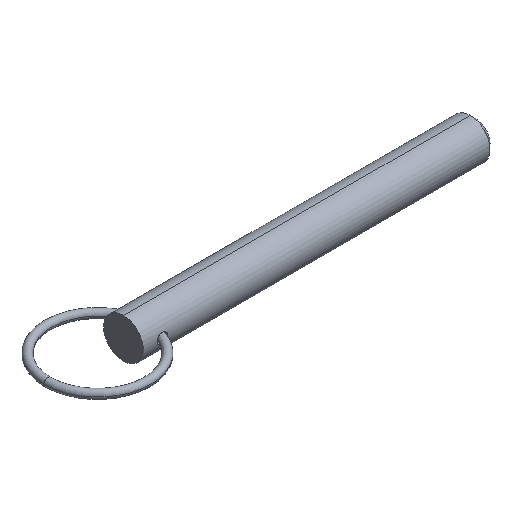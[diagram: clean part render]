
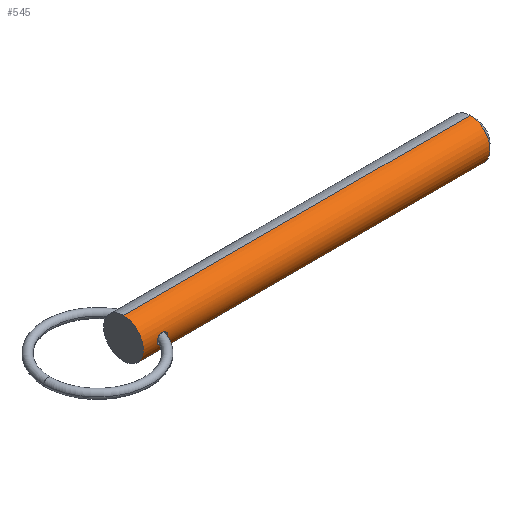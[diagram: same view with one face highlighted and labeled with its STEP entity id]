
A CAD part, isometric view. The second image highlights one B-rep face of the part: STEP entity #545.
In plain terms, the highlighted cylindrical face has radius 6.35 mm (diameter 12.7 mm), a partial arc.
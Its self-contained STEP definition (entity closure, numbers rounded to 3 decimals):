
#16 = ORIENTED_EDGE ( 'NONE', *, *, #175, .T. ) ;
#18 = CARTESIAN_POINT ( 'NONE',  ( 0., 0., 6.35 ) ) ;
#24 = CARTESIAN_POINT ( 'NONE',  ( 4.722, -6.298, -0.813 ) ) ;
#25 = AXIS2_PLACEMENT_3D ( 'NONE', #134, #818, #417 ) ;
#26 = CARTESIAN_POINT ( 'NONE',  ( 111.112, 0., 6.35 ) ) ;
#29 = ORIENTED_EDGE ( 'NONE', *, *, #763, .T. ) ;
#31 = CARTESIAN_POINT ( 'NONE',  ( 7.496, -6.256, -1.091 ) ) ;
#32 = DIRECTION ( 'NONE',  ( 1., 0., 0. ) ) ;
#38 = CARTESIAN_POINT ( 'NONE',  ( 111.112, 0., 0. ) ) ;
#44 = FACE_BOUND ( 'NONE', #229, .T. ) ;
#50 = CARTESIAN_POINT ( 'NONE',  ( 6.111, -6.15, 1.582 ) ) ;
#53 = CARTESIAN_POINT ( 'NONE',  ( 4.452, -6.35, 0.219 ) ) ;
#66 = LINE ( 'NONE', #146, #630 ) ;
#90 = CARTESIAN_POINT ( 'NONE',  ( 7.865, -6.336, -0.432 ) ) ;
#95 = CARTESIAN_POINT ( 'NONE',  ( 7.92, -6.35, -0.109 ) ) ;
#96 = EDGE_CURVE ( 'NONE', #118, #852, #214, .T. ) ;
#100 = CARTESIAN_POINT ( 'NONE',  ( 7.693, -6.296, -0.832 ) ) ;
#102 = EDGE_LOOP ( 'NONE', ( #142, #219, #16, #500 ) ) ;
#104 = CARTESIAN_POINT ( 'NONE',  ( 6.107, -6.15, -1.582 ) ) ;
#106 = CARTESIAN_POINT ( 'NONE',  ( 5.685, -6.172, 1.494 ) ) ;
#118 = VERTEX_POINT ( 'NONE', #201 ) ;
#134 = CARTESIAN_POINT ( 'NONE',  ( 0., 0., 0. ) ) ;
#142 = ORIENTED_EDGE ( 'NONE', *, *, #356, .F. ) ;
#146 = CARTESIAN_POINT ( 'NONE',  ( 0., 0., -6.35 ) ) ;
#152 = CARTESIAN_POINT ( 'NONE',  ( 6.963, -6.18, -1.459 ) ) ;
#157 = CARTESIAN_POINT ( 'NONE',  ( 7.833, -6.328, -0.536 ) ) ;
#172 = CARTESIAN_POINT ( 'NONE',  ( 5.191, -6.224, 1.268 ) ) ;
#174 = CARTESIAN_POINT ( 'NONE',  ( 5.784, -6.165, -1.523 ) ) ;
#175 = EDGE_CURVE ( 'NONE', #736, #768, #66, .T. ) ;
#179 = CARTESIAN_POINT ( 'NONE',  ( 0., 0., 6.35 ) ) ;
#191 = CARTESIAN_POINT ( 'NONE',  ( 4.713, -6.3, 0.82 ) ) ;
#196 = CARTESIAN_POINT ( 'NONE',  ( 6.759, -6.163, 1.529 ) ) ;
#201 = CARTESIAN_POINT ( 'NONE',  ( 4.452, -6.35, 0. ) ) ;
#214 = B_SPLINE_CURVE_WITH_KNOTS ( 'NONE', 3,
 ( #392, #53, #879, #191, #536, #172, #794, #106, #599, #603, #50, #255, #539, #807, #196, #547, #502, #217, #413, #631, #433, #772, #616, #371 ),
 .UNSPECIFIED., .F., .F.,
 ( 4, 2, 2, 2, 2, 2, 2, 2, 2, 2, 2, 4 ),
 ( 0.001, 0.002, 0.002, 0.003, 0.003, 0.004, 0.004, 0.004, 0.005, 0.005, 0.006, 0.006 ),
 .UNSPECIFIED. ) ;
#217 = CARTESIAN_POINT ( 'NONE',  ( 7.249, -6.215, 1.303 ) ) ;
#219 = ORIENTED_EDGE ( 'NONE', *, *, #273, .T. ) ;
#227 = CARTESIAN_POINT ( 'NONE',  ( 7.92, -6.35, 0. ) ) ;
#229 = EDGE_LOOP ( 'NONE', ( #311, #29 ) ) ;
#231 = FACE_OUTER_BOUND ( 'NONE', #102, .T. ) ;
#241 = CARTESIAN_POINT ( 'NONE',  ( 0., 0., -6.35 ) ) ;
#255 = CARTESIAN_POINT ( 'NONE',  ( 6.329, -6.148, 1.59 ) ) ;
#273 = EDGE_CURVE ( 'NONE', #836, #736, #434, .T. ) ;
#301 = CARTESIAN_POINT ( 'NONE',  ( 7.746, -6.308, -0.737 ) ) ;
#309 = CARTESIAN_POINT ( 'NONE',  ( 4.466, -6.347, -0.219 ) ) ;
#310 = DIRECTION ( 'NONE',  ( 0., 0., -1. ) ) ;
#311 = ORIENTED_EDGE ( 'NONE', *, *, #96, .T. ) ;
#315 = CARTESIAN_POINT ( 'NONE',  ( 4.56, -6.329, -0.53 ) ) ;
#322 = CARTESIAN_POINT ( 'NONE',  ( 7.909, -6.347, -0.22 ) ) ;
#356 = EDGE_CURVE ( 'NONE', #836, #543, #647, .T. ) ;
#370 = CARTESIAN_POINT ( 'NONE',  ( 4.86, -6.274, -0.98 ) ) ;
#371 = CARTESIAN_POINT ( 'NONE',  ( 7.92, -6.35, 0. ) ) ;
#374 = CARTESIAN_POINT ( 'NONE',  ( 5.192, -6.225, -1.257 ) ) ;
#378 = AXIS2_PLACEMENT_3D ( 'NONE', #462, #785, #310 ) ;
#385 = CARTESIAN_POINT ( 'NONE',  ( 5.68, -6.172, -1.492 ) ) ;
#387 = CYLINDRICAL_SURFACE ( 'NONE', #378, 6.35 ) ;
#391 = DIRECTION ( 'NONE',  ( 1., 0., 0. ) ) ;
#392 = CARTESIAN_POINT ( 'NONE',  ( 4.452, -6.35, 0. ) ) ;
#413 = CARTESIAN_POINT ( 'NONE',  ( 7.338, -6.229, 1.237 ) ) ;
#417 = DIRECTION ( 'NONE',  ( 0., 0., -1. ) ) ;
#419 = EDGE_CURVE ( 'NONE', #543, #768, #668, .T. ) ;
#433 = CARTESIAN_POINT ( 'NONE',  ( 7.704, -6.298, 0.835 ) ) ;
#434 = CIRCLE ( 'NONE', #25, 6.35 ) ;
#460 = CARTESIAN_POINT ( 'NONE',  ( 111.112, 0., -6.35 ) ) ;
#462 = CARTESIAN_POINT ( 'NONE',  ( 0., 0., 0. ) ) ;
#466 = DIRECTION ( 'NONE',  ( 0., 0., -1. ) ) ;
#500 = ORIENTED_EDGE ( 'NONE', *, *, #419, .F. ) ;
#502 = CARTESIAN_POINT ( 'NONE',  ( 7.063, -6.191, 1.413 ) ) ;
#514 = CARTESIAN_POINT ( 'NONE',  ( 5.477, -6.191, -1.414 ) ) ;
#525 = CARTESIAN_POINT ( 'NONE',  ( 4.52, -6.336, -0.428 ) ) ;
#530 = CARTESIAN_POINT ( 'NONE',  ( 7.336, -6.229, -1.238 ) ) ;
#536 = CARTESIAN_POINT ( 'NONE',  ( 4.856, -6.274, 0.989 ) ) ;
#539 = CARTESIAN_POINT ( 'NONE',  ( 6.437, -6.149, 1.585 ) ) ;
#543 = VERTEX_POINT ( 'NONE', #26 ) ;
#545 = ADVANCED_FACE ( 'NONE', ( #231, #44 ), #387, .T. ) ;
#547 = CARTESIAN_POINT ( 'NONE',  ( 6.965, -6.181, 1.458 ) ) ;
#574 = CARTESIAN_POINT ( 'NONE',  ( 4.662, -6.309, -0.723 ) ) ;
#585 = CARTESIAN_POINT ( 'NONE',  ( 6.434, -6.147, -1.595 ) ) ;
#589 = CARTESIAN_POINT ( 'NONE',  ( 7.25, -6.215, -1.302 ) ) ;
#599 = CARTESIAN_POINT ( 'NONE',  ( 5.789, -6.164, 1.525 ) ) ;
#603 = CARTESIAN_POINT ( 'NONE',  ( 6.002, -6.153, 1.569 ) ) ;
#616 = CARTESIAN_POINT ( 'NONE',  ( 7.92, -6.35, 0.218 ) ) ;
#630 = VECTOR ( 'NONE', #706, 1000. ) ;
#631 = CARTESIAN_POINT ( 'NONE',  ( 7.576, -6.27, 1.017 ) ) ;
#632 = VECTOR ( 'NONE', #32, 1000. ) ;
#641 = CARTESIAN_POINT ( 'NONE',  ( 5.998, -6.153, -1.568 ) ) ;
#646 = CARTESIAN_POINT ( 'NONE',  ( 5.104, -6.237, -1.196 ) ) ;
#647 = LINE ( 'NONE', #179, #632 ) ;
#652 = CARTESIAN_POINT ( 'NONE',  ( 7.568, -6.27, -1.008 ) ) ;
#657 = CARTESIAN_POINT ( 'NONE',  ( 5.378, -6.201, -1.366 ) ) ;
#668 = CIRCLE ( 'NONE', #777, 6.35 ) ;
#706 = DIRECTION ( 'NONE',  ( 1., 0., 0. ) ) ;
#713 = CARTESIAN_POINT ( 'NONE',  ( 7.92, -6.35, 0. ) ) ;
#729 = CARTESIAN_POINT ( 'NONE',  ( 7.063, -6.191, -1.413 ) ) ;
#736 = VERTEX_POINT ( 'NONE', #241 ) ;
#763 = EDGE_CURVE ( 'NONE', #852, #118, #812, .T. ) ;
#768 = VERTEX_POINT ( 'NONE', #460 ) ;
#772 = CARTESIAN_POINT ( 'NONE',  ( 7.875, -6.338, 0.437 ) ) ;
#777 = AXIS2_PLACEMENT_3D ( 'NONE', #38, #391, #466 ) ;
#785 = DIRECTION ( 'NONE',  ( 1., 0., 0. ) ) ;
#789 = CARTESIAN_POINT ( 'NONE',  ( 4.452, -6.35, 0. ) ) ;
#794 = CARTESIAN_POINT ( 'NONE',  ( 5.381, -6.199, 1.378 ) ) ;
#807 = CARTESIAN_POINT ( 'NONE',  ( 6.652, -6.157, 1.554 ) ) ;
#812 = B_SPLINE_CURVE_WITH_KNOTS ( 'NONE', 3,
 ( #713, #95, #322, #90, #157, #301, #100, #652, #31, #530, #589, #729, #152, #855, #585, #104, #641, #174, #385, #514, #657, #374, #646, #861, #370, #24, #574, #315, #525, #309, #867, #789 ),
 .UNSPECIFIED., .F., .F.,
 ( 4, 2, 2, 2, 2, 2, 2, 2, 2, 2, 2, 2, 2, 2, 2, 4 ),
 ( 0.006, 0.007, 0.007, 0.007, 0.008, 0.008, 0.008, 0.009, 0.009, 0.01, 0.01, 0.01, 0.011, 0.011, 0.011, 0.012 ),
 .UNSPECIFIED. ) ;
#818 = DIRECTION ( 'NONE',  ( 1., 0., 0. ) ) ;
#836 = VERTEX_POINT ( 'NONE', #18 ) ;
#852 = VERTEX_POINT ( 'NONE', #227 ) ;
#855 = CARTESIAN_POINT ( 'NONE',  ( 6.655, -6.155, -1.565 ) ) ;
#861 = CARTESIAN_POINT ( 'NONE',  ( 4.938, -6.262, -1.058 ) ) ;
#867 = CARTESIAN_POINT ( 'NONE',  ( 4.452, -6.35, -0.109 ) ) ;
#879 = CARTESIAN_POINT ( 'NONE',  ( 4.51, -6.338, 0.435 ) ) ;
